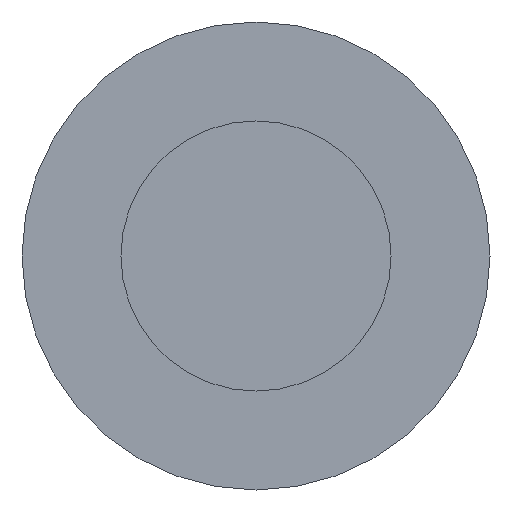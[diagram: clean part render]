
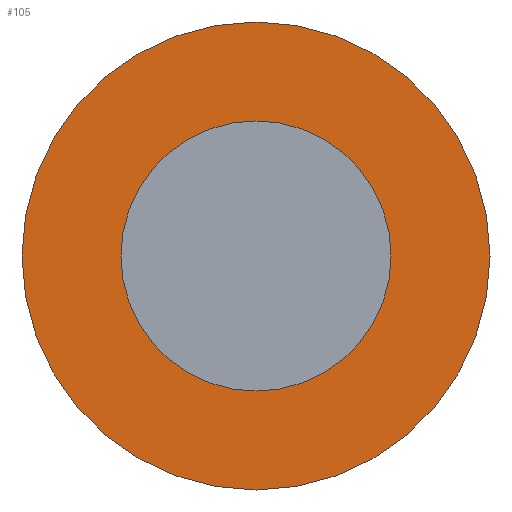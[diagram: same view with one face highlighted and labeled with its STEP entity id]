
A CAD part, front view. The second image highlights one B-rep face of the part: STEP entity #105.
In plain terms, the highlighted planar face has unit normal (0, -1, 0).
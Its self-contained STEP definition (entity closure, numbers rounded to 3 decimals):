
#22 = VERTEX_POINT('',#23);
#23 = CARTESIAN_POINT('',(80.5,-21.,-170.));
#32 = CYLINDRICAL_SURFACE('',#33,5.5);
#33 = AXIS2_PLACEMENT_3D('',#34,#35,#36);
#34 = CARTESIAN_POINT('',(75.,-21.,-170.));
#35 = DIRECTION('',(0.,-1.,-0.));
#36 = DIRECTION('',(1.,0.,0.));
#79 = EDGE_CURVE('',#22,#22,#80,.T.);
#80 = SURFACE_CURVE('',#81,(#86,#93),.PCURVE_S1.);
#81 = CIRCLE('',#82,5.5);
#82 = AXIS2_PLACEMENT_3D('',#83,#84,#85);
#83 = CARTESIAN_POINT('',(75.,-21.,-170.));
#84 = DIRECTION('',(-0.,1.,0.));
#85 = DIRECTION('',(1.,0.,0.));
#86 = PCURVE('',#32,#87);
#87 = DEFINITIONAL_REPRESENTATION('',(#88),#92);
#88 = LINE('',#89,#90);
#89 = CARTESIAN_POINT('',(-0.,0.));
#90 = VECTOR('',#91,1.);
#91 = DIRECTION('',(-1.,0.));
#92 = ( GEOMETRIC_REPRESENTATION_CONTEXT(2) 
PARAMETRIC_REPRESENTATION_CONTEXT() REPRESENTATION_CONTEXT('2D SPACE',''
  ) );
#93 = PCURVE('',#94,#99);
#94 = PLANE('',#95);
#95 = AXIS2_PLACEMENT_3D('',#96,#97,#98);
#96 = CARTESIAN_POINT('',(75.,-21.,-170.));
#97 = DIRECTION('',(0.,1.,0.));
#98 = DIRECTION('',(0.,-0.,1.));
#99 = DEFINITIONAL_REPRESENTATION('',(#100),#104);
#100 = CIRCLE('',#101,5.5);
#101 = AXIS2_PLACEMENT_2D('',#102,#103);
#102 = CARTESIAN_POINT('',(0.,0.));
#103 = DIRECTION('',(0.,1.));
#104 = ( GEOMETRIC_REPRESENTATION_CONTEXT(2) 
PARAMETRIC_REPRESENTATION_CONTEXT() REPRESENTATION_CONTEXT('2D SPACE',''
  ) );
#105 = ADVANCED_FACE('',(#106,#109),#94,.F.);
#106 = FACE_BOUND('',#107,.F.);
#107 = EDGE_LOOP('',(#108));
#108 = ORIENTED_EDGE('',*,*,#79,.T.);
#109 = FACE_BOUND('',#110,.F.);
#110 = EDGE_LOOP('',(#111));
#111 = ORIENTED_EDGE('',*,*,#112,.F.);
#112 = EDGE_CURVE('',#113,#113,#115,.T.);
#113 = VERTEX_POINT('',#114);
#114 = CARTESIAN_POINT('',(78.175,-21.,-170.));
#115 = SURFACE_CURVE('',#116,(#121,#128),.PCURVE_S1.);
#116 = CIRCLE('',#117,3.175);
#117 = AXIS2_PLACEMENT_3D('',#118,#119,#120);
#118 = CARTESIAN_POINT('',(75.,-21.,-170.));
#119 = DIRECTION('',(-0.,1.,0.));
#120 = DIRECTION('',(1.,0.,0.));
#121 = PCURVE('',#94,#122);
#122 = DEFINITIONAL_REPRESENTATION('',(#123),#127);
#123 = CIRCLE('',#124,3.175);
#124 = AXIS2_PLACEMENT_2D('',#125,#126);
#125 = CARTESIAN_POINT('',(0.,0.));
#126 = DIRECTION('',(0.,1.));
#127 = ( GEOMETRIC_REPRESENTATION_CONTEXT(2) 
PARAMETRIC_REPRESENTATION_CONTEXT() REPRESENTATION_CONTEXT('2D SPACE',''
  ) );
#128 = PCURVE('',#129,#134);
#129 = CYLINDRICAL_SURFACE('',#130,3.175);
#130 = AXIS2_PLACEMENT_3D('',#131,#132,#133);
#131 = CARTESIAN_POINT('',(75.,-73.,-170.));
#132 = DIRECTION('',(0.,-1.,-0.));
#133 = DIRECTION('',(1.,0.,0.));
#134 = DEFINITIONAL_REPRESENTATION('',(#135),#139);
#135 = LINE('',#136,#137);
#136 = CARTESIAN_POINT('',(-0.,-52.));
#137 = VECTOR('',#138,1.);
#138 = DIRECTION('',(-1.,0.));
#139 = ( GEOMETRIC_REPRESENTATION_CONTEXT(2) 
PARAMETRIC_REPRESENTATION_CONTEXT() REPRESENTATION_CONTEXT('2D SPACE',''
  ) );
